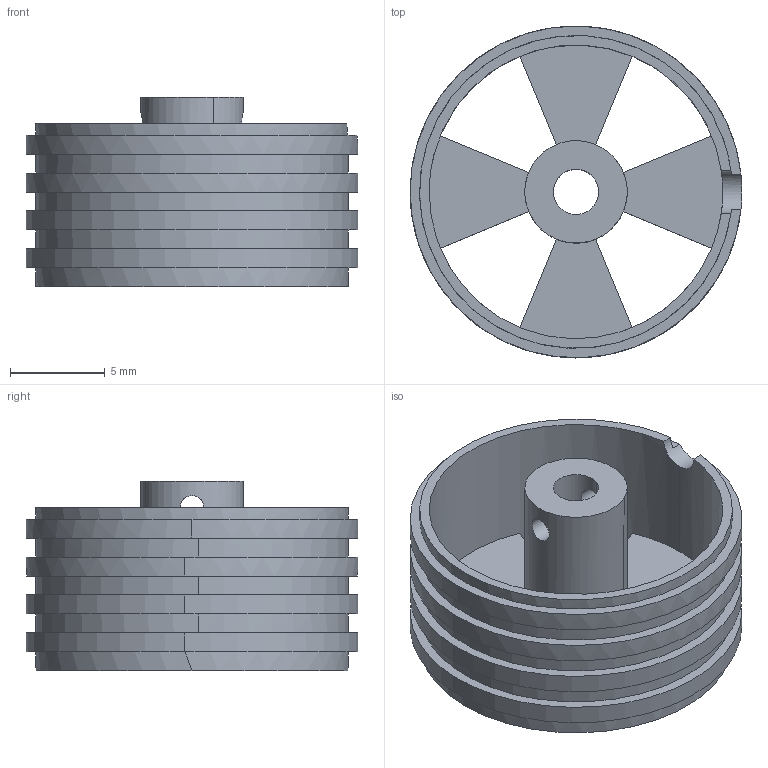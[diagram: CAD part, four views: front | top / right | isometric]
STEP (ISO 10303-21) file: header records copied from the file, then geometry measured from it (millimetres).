
FILE_DESCRIPTION(('Open CASCADE Model'),'2;1');
FILE_NAME('Open CASCADE Shape Model','2026-10-27T16:29:35',('Author'),( 'Open CASCADE'),'Open CASCADE STEP processor 7.9','Open CASCADE 7.9' ,'Unknown');
FILE_SCHEMA(('AUTOMOTIVE_DESIGN { 1 0 10303 214 1 1 1 1 }'));
Length unit declared in the file: millimetre
Products named in the file (1): Open CASCADE STEP translator 7.9 1
Bounding box: 17.5 x 17.5 x 10 mm (x, y, z)
Volume: 667.8 mm3; surface area: 1607.6 mm2
Topology: 1 solids, 1 shells, 53 faces, 146 edges, 96 vertices
Faces by surface type: cylinder 30, plane 23
Entity records: 7519 total; most frequent: CARTESIAN_POINT 5056, DIRECTION 337, ORIENTED_EDGE 292, PCURVE 292, DEFINITIONAL_REPRESENTATION 292, B_SPLINE_CURVE_WITH_KNOTS 218, EDGE_CURVE 146, SURFACE_CURVE 146
